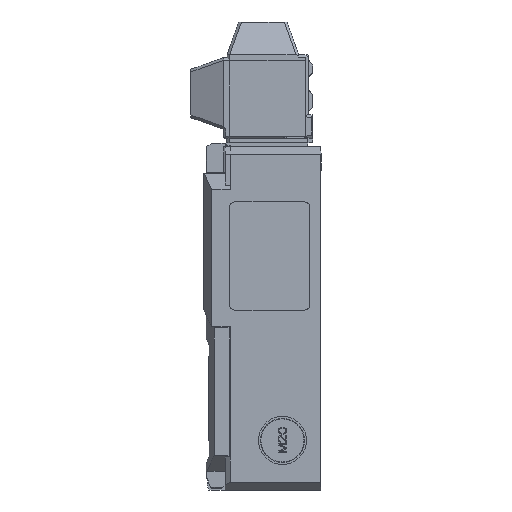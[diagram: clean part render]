
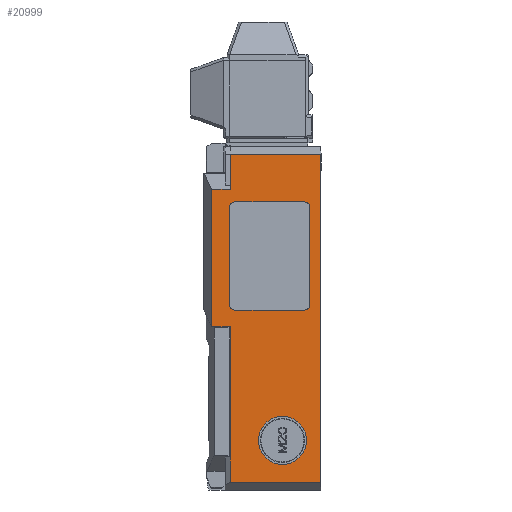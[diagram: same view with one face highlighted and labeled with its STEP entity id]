
A CAD part, left-side view. The second image highlights one B-rep face of the part: STEP entity #20999.
In plain terms, the highlighted planar face has unit normal (-1, 0, 0).
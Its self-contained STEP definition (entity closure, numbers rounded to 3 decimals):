
#4695=DIRECTION('',(0.,0.,1.));
#4696=VECTOR('',#4695,10.);
#4697=CARTESIAN_POINT('',(-21.25,14.5,-133.5));
#4698=LINE('',#4697,#4696);
#4699=DIRECTION('',(0.,0.,-1.));
#4700=VECTOR('',#4699,51.216);
#4701=CARTESIAN_POINT('',(-21.25,14.5,-72.284));
#4702=LINE('',#4701,#4700);
#4703=DIRECTION('',(0.,-1.,0.));
#4704=VECTOR('',#4703,7.352);
#4705=CARTESIAN_POINT('',(-21.25,21.852,-18.293));
#4706=LINE('',#4705,#4704);
#4707=DIRECTION('',(0.,0.,-1.));
#4708=VECTOR('',#4707,13.793);
#4709=CARTESIAN_POINT('',(-21.25,14.5,-4.5));
#4710=LINE('',#4709,#4708);
#4711=DIRECTION('',(0.,1.,0.));
#4712=VECTOR('',#4711,35.5);
#4713=CARTESIAN_POINT('',(-21.25,-21.,-4.5));
#4714=LINE('',#4713,#4712);
#4715=DIRECTION('',(0.,0.,-1.));
#4716=VECTOR('',#4715,129.);
#4717=CARTESIAN_POINT('',(-21.25,-21.,-4.5));
#4718=LINE('',#4717,#4716);
#4719=DIRECTION('',(0.,1.,0.));
#4720=VECTOR('',#4719,35.5);
#4721=CARTESIAN_POINT('',(-21.25,-21.,-133.5));
#4722=LINE('',#4721,#4720);
#4723=CARTESIAN_POINT('',(-21.25,-6.,-117.));
#4724=DIRECTION('',(-1.,0.,0.));
#4725=DIRECTION('',(0.,-1.,0.));
#4726=AXIS2_PLACEMENT_3D('',#4723,#4724,#4725);
#4728=CARTESIAN_POINT('',(-21.25,-6.,-117.));
#4729=DIRECTION('',(-1.,0.,0.));
#4730=DIRECTION('',(0.,1.,0.));
#4731=AXIS2_PLACEMENT_3D('',#4728,#4729,#4730);
#4733=DIRECTION('',(0.,-1.,0.));
#4734=VECTOR('',#4733,27.5);
#4735=CARTESIAN_POINT('',(-21.25,12.75,-65.75));
#4736=LINE('',#4735,#4734);
#4737=CARTESIAN_POINT('',(-21.25,-14.75,-63.75));
#4738=DIRECTION('',(-1.,0.,0.));
#4739=DIRECTION('',(0.,0.,-1.));
#4740=AXIS2_PLACEMENT_3D('',#4737,#4738,#4739);
#4742=DIRECTION('',(0.,0.,1.));
#4743=VECTOR('',#4742,38.5);
#4744=CARTESIAN_POINT('',(-21.25,-16.75,-63.75));
#4745=LINE('',#4744,#4743);
#4746=CARTESIAN_POINT('',(-21.25,-14.75,-25.25));
#4747=DIRECTION('',(-1.,0.,0.));
#4748=DIRECTION('',(0.,-1.,0.));
#4749=AXIS2_PLACEMENT_3D('',#4746,#4747,#4748);
#4751=DIRECTION('',(0.,1.,0.));
#4752=VECTOR('',#4751,27.5);
#4753=CARTESIAN_POINT('',(-21.25,-14.75,-23.25));
#4754=LINE('',#4753,#4752);
#4755=CARTESIAN_POINT('',(-21.25,12.75,-25.25));
#4756=DIRECTION('',(-1.,0.,0.));
#4757=DIRECTION('',(0.,0.,1.));
#4758=AXIS2_PLACEMENT_3D('',#4755,#4756,#4757);
#4760=DIRECTION('',(0.,0.,-1.));
#4761=VECTOR('',#4760,38.5);
#4762=CARTESIAN_POINT('',(-21.25,14.75,-25.25));
#4763=LINE('',#4762,#4761);
#4764=CARTESIAN_POINT('',(-21.25,12.75,-63.75));
#4765=DIRECTION('',(-1.,0.,0.));
#4766=DIRECTION('',(0.,1.,0.));
#4767=AXIS2_PLACEMENT_3D('',#4764,#4765,#4766);
#4869=DIRECTION('',(0.,-1.,0.));
#4870=VECTOR('',#4869,7.352);
#4871=CARTESIAN_POINT('',(-21.25,21.852,-72.284));
#4872=LINE('',#4871,#4870);
#4889=DIRECTION('',(0.,0.,-1.));
#4890=VECTOR('',#4889,53.991);
#4891=CARTESIAN_POINT('',(-21.25,21.852,-18.293));
#4892=LINE('',#4891,#4890);
#12210=CARTESIAN_POINT('',(-21.25,21.852,-72.284));
#12212=VERTEX_POINT('',#12210);
#12225=CARTESIAN_POINT('',(-21.25,-21.,-133.5));
#12226=VERTEX_POINT('',#12225);
#12227=CARTESIAN_POINT('',(-21.25,-21.,-4.5));
#12229=VERTEX_POINT('',#12227);
#12251=CARTESIAN_POINT('',(-21.25,14.5,-4.5));
#12252=CARTESIAN_POINT('',(-21.25,14.5,-18.293));
#12253=VERTEX_POINT('',#12251);
#12254=VERTEX_POINT('',#12252);
#12255=CARTESIAN_POINT('',(-21.25,21.852,-18.293));
#12256=VERTEX_POINT('',#12255);
#12409=CARTESIAN_POINT('',(-21.25,14.5,-72.284));
#12410=VERTEX_POINT('',#12409);
#12421=CARTESIAN_POINT('',(-21.25,14.5,-133.5));
#12422=CARTESIAN_POINT('',(-21.25,14.5,-123.5));
#12423=VERTEX_POINT('',#12421);
#12424=VERTEX_POINT('',#12422);
#12531=CARTESIAN_POINT('',(-21.25,-15.46,-117.));
#12532=CARTESIAN_POINT('',(-21.25,3.46,-117.));
#12533=VERTEX_POINT('',#12531);
#12534=VERTEX_POINT('',#12532);
#15645=CARTESIAN_POINT('',(-21.25,12.75,-65.75));
#15646=CARTESIAN_POINT('',(-21.25,-14.75,-65.75));
#15647=VERTEX_POINT('',#15645);
#15648=VERTEX_POINT('',#15646);
#15649=CARTESIAN_POINT('',(-21.25,-16.75,-63.75));
#15650=CARTESIAN_POINT('',(-21.25,-16.75,-25.25));
#15651=VERTEX_POINT('',#15649);
#15652=VERTEX_POINT('',#15650);
#15653=CARTESIAN_POINT('',(-21.25,-14.75,-23.25));
#15654=CARTESIAN_POINT('',(-21.25,12.75,-23.25));
#15655=VERTEX_POINT('',#15653);
#15656=VERTEX_POINT('',#15654);
#15657=CARTESIAN_POINT('',(-21.25,14.75,-25.25));
#15658=CARTESIAN_POINT('',(-21.25,14.75,-63.75));
#15659=VERTEX_POINT('',#15657);
#15660=VERTEX_POINT('',#15658);
#20955=CARTESIAN_POINT('',(-21.25,-21.,-1.5));
#20956=DIRECTION('',(-1.,0.,0.));
#20957=DIRECTION('',(0.,1.,0.));
#20958=AXIS2_PLACEMENT_3D('',#20955,#20956,#20957);
#20959=PLANE('',#20958);
#20960=ORIENTED_EDGE('',*,*,#16509,.T.);
#20962=ORIENTED_EDGE('',*,*,#20961,.F.);
#20964=ORIENTED_EDGE('',*,*,#20963,.F.);
#20966=ORIENTED_EDGE('',*,*,#20965,.F.);
#20968=ORIENTED_EDGE('',*,*,#20967,.T.);
#20969=ORIENTED_EDGE('',*,*,#19952,.F.);
#20970=ORIENTED_EDGE('',*,*,#20950,.F.);
#20971=ORIENTED_EDGE('',*,*,#16348,.T.);
#20972=ORIENTED_EDGE('',*,*,#16490,.T.);
#20973=EDGE_LOOP('',(#20960,#20962,#20964,#20966,#20968,#20969,#20970,#20971,
#20972));
#20974=FACE_OUTER_BOUND('',#20973,.F.);
#20976=ORIENTED_EDGE('',*,*,#20975,.T.);
#20978=ORIENTED_EDGE('',*,*,#20977,.T.);
#20979=EDGE_LOOP('',(#20976,#20978));
#20980=FACE_BOUND('',#20979,.F.);
#20982=ORIENTED_EDGE('',*,*,#20981,.T.);
#20984=ORIENTED_EDGE('',*,*,#20983,.T.);
#20986=ORIENTED_EDGE('',*,*,#20985,.T.);
#20988=ORIENTED_EDGE('',*,*,#20987,.T.);
#20990=ORIENTED_EDGE('',*,*,#20989,.T.);
#20992=ORIENTED_EDGE('',*,*,#20991,.T.);
#20994=ORIENTED_EDGE('',*,*,#20993,.T.);
#20996=ORIENTED_EDGE('',*,*,#20995,.T.);
#20997=EDGE_LOOP('',(#20982,#20984,#20986,#20988,#20990,#20992,#20994,#20996));
#20998=FACE_BOUND('',#20997,.F.);
#4727=CIRCLE('',#4726,9.46);
#4732=CIRCLE('',#4731,9.46);
#4741=CIRCLE('',#4740,2.);
#4750=CIRCLE('',#4749,2.);
#4759=CIRCLE('',#4758,2.);
#4768=CIRCLE('',#4767,2.);
#16348=EDGE_CURVE('',#12229,#12226,#4718,.T.);
#16490=EDGE_CURVE('',#12226,#12423,#4722,.T.);
#16509=EDGE_CURVE('',#12423,#12424,#4698,.T.);
#19952=EDGE_CURVE('',#12253,#12254,#4710,.T.);
#20950=EDGE_CURVE('',#12229,#12253,#4714,.T.);
#20961=EDGE_CURVE('',#12410,#12424,#4702,.T.);
#20963=EDGE_CURVE('',#12212,#12410,#4872,.T.);
#20965=EDGE_CURVE('',#12256,#12212,#4892,.T.);
#20967=EDGE_CURVE('',#12256,#12254,#4706,.T.);
#20975=EDGE_CURVE('',#12533,#12534,#4727,.T.);
#20977=EDGE_CURVE('',#12534,#12533,#4732,.T.);
#20981=EDGE_CURVE('',#15647,#15648,#4736,.T.);
#20983=EDGE_CURVE('',#15648,#15651,#4741,.T.);
#20985=EDGE_CURVE('',#15651,#15652,#4745,.T.);
#20987=EDGE_CURVE('',#15652,#15655,#4750,.T.);
#20989=EDGE_CURVE('',#15655,#15656,#4754,.T.);
#20991=EDGE_CURVE('',#15656,#15659,#4759,.T.);
#20993=EDGE_CURVE('',#15659,#15660,#4763,.T.);
#20995=EDGE_CURVE('',#15660,#15647,#4768,.T.);
#20999=ADVANCED_FACE('',(#20974,#20980,#20998),#20959,.T.);
